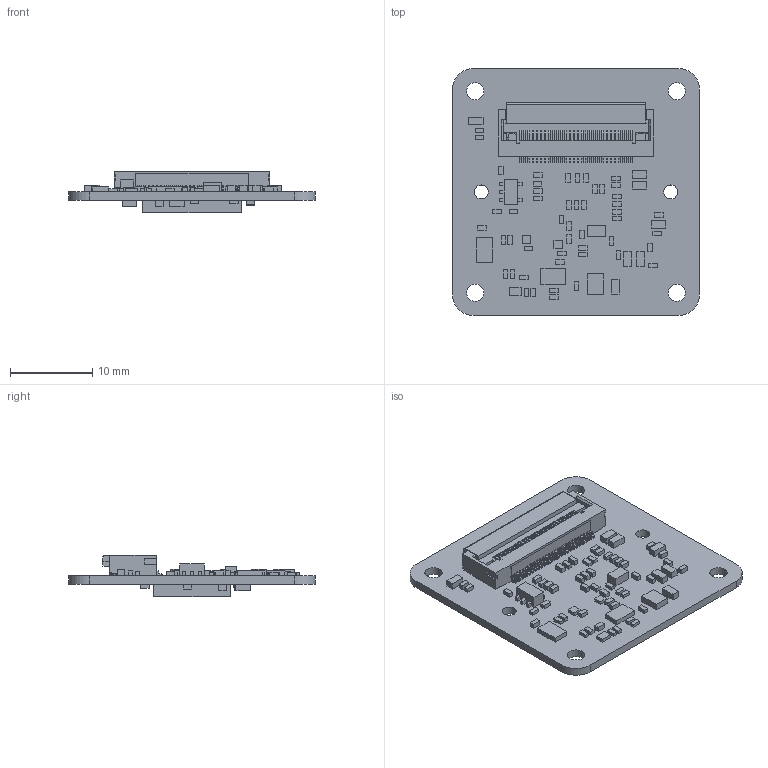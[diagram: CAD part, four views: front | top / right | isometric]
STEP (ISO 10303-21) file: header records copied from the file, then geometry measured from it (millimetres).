
FILE_DESCRIPTION(/* description */ ('289-20-0-06-00'),/* implementation_level */ '2;1');
FILE_NAME(/* name */ 'D:\HiDrive\1_Konstruktion\1_KUNDEN\TIS\289-20_MIPI-Dokumentation\KundenStepModell (KSM)\289-20-0_MIPI-MX-Modul (Sensorboard)\289-20-0-06-00_MX_IMX415-R110.stp',/* time_stamp */ '2021-08-15T21:09:03+02:00',/* author */ ('Westermann'),/* organization */ ('TIS, Bremen-Germany'),/* preprocessor_version */ 'ST-DEVELOPER v18.1',/* originating_system */ 'Autodesk Inventor 2021',/* authorisation */ '6767,5 mm^3');
FILE_SCHEMA (('AUTOMOTIVE_DESIGN { 1 0 10303 214 3 1 1 }'));
Length unit declared in the file: millimetre
Products named in the file (1): 289-20-0-06-00_MX_IMX415-R110
Bounding box: 30.01 x 30 x 5.02 mm (x, y, z)
Volume: 1327.5 mm3; surface area: 2578.2 mm2
Topology: 1 solids, 1 shells, 1377 faces, 3956 edges, 2633 vertices
Faces by surface type: plane 1183, cylinder 194
Full cylindrical faces by diameter (mm): 1.7 x2, 2.1 x4
Entity records: 46198 total; most frequent: CARTESIAN_POINT 7967, ORIENTED_EDGE 7912, DIRECTION 7101, EDGE_CURVE 3956, LINE 3567, VECTOR 3567, VERTEX_POINT 2633, AXIS2_PLACEMENT_3D 1767
